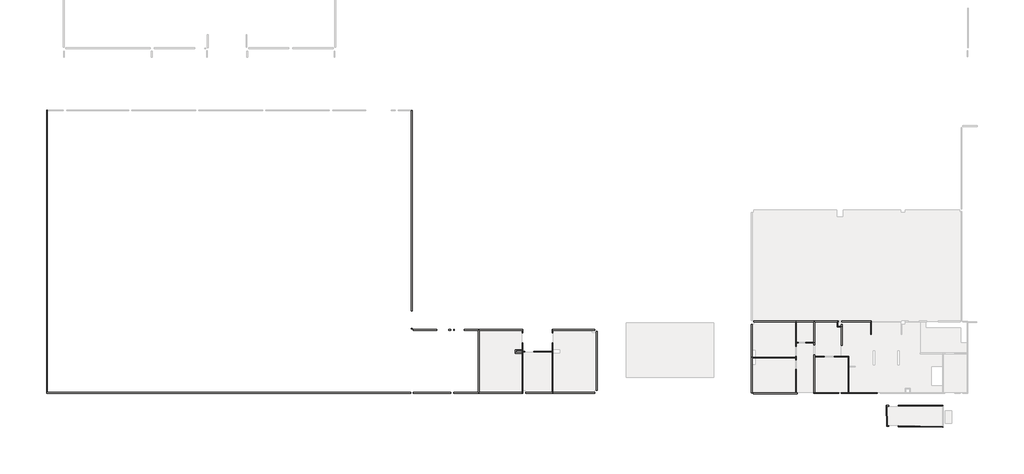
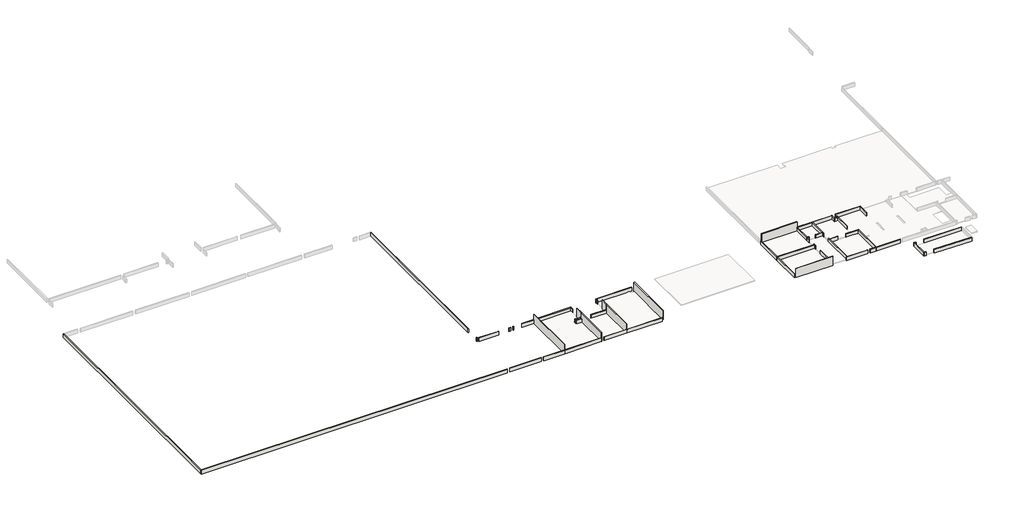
# One storey, part 1 of 4: 60 walls.
"""IFC4 building model written with IfcOpenShell, lengths in millimetres."""

from ifc_helpers import new_model, si_unit, frame, origin, place, context, project, spatial, polyline, outline, extrude, faceted_brep, element, save

model = new_model("IFC4")

# Units and contexts
model_context = context("Model", 3, world=origin())
ifc_project = project(units=[si_unit("LENGTHUNIT", "METRE", prefix="MILLI")], contexts=[model_context])

# Site, building, storey
site = spatial("IfcSite", under=ifc_project)
building = spatial("IfcBuilding", under=site)
storey = spatial("IfcBuildingStorey", under=building, Name="PLANTA DE IMPERMEABILIZAÇÃO - TERREO", Elevation=52050.0)

# Walls
placement = place(None, origin())
element("IfcWall", 1, ObjectType="Áreas frias", at=placement, inside=storey, context=model_context, shape_type="Brep", body=[
    faceted_brep([(15316.6299829, -23245.6176009, 52050.0), (12751.4501612, -23245.6176009, 52050.0), (12718.9501612, -23245.6176009, 52050.0), (12718.9501612, -23245.6176009, 52450.0), (12751.4501612, -23245.6176009, 52450.0), (15316.6299829, -23245.6176009, 52450.0), (15316.6299829, -23310.6176009, 52050.0), (15316.6299829, -23310.6176009, 52450.0), (12718.9501612, -23310.6176009, 52450.0), (12718.9501612, -23310.6176009, 52050.0)], [[[0, 1, 2, 3, 4, 5]], [[6, 7, 8, 9]], [[2, 1, 0, 6, 9]], [[3, 2, 9, 8]], [[5, 4, 3, 8, 7]], [[0, 5, 7, 6]]]),
])
element("IfcWall", 2, ObjectType="Áreas frias", at=placement, inside=storey, context=model_context, shape_type="Brep", body=[
    faceted_brep([(11821.9533154, -23245.6176009, 52050.0), (9659.5605099, -23245.6176009, 52050.0), (9594.5605099, -23245.6176009, 52050.0), (9562.0605099, -23245.6176009, 52050.0), (9562.0605099, -23245.6176009, 52450.0), (9594.5605099, -23245.6176009, 52450.0), (9659.5605099, -23245.6176009, 52450.0), (11821.9533154, -23245.6176009, 52450.0), (11821.9533154, -23310.6176009, 52050.0), (11821.9533154, -23310.6176009, 52450.0), (9562.0605099, -23310.6176009, 52450.0), (9562.0605099, -23310.6176009, 52050.0)], [[[0, 1, 2, 3, 4, 5, 6, 7]], [[8, 9, 10, 11]], [[3, 2, 1, 0, 8, 11]], [[4, 3, 11, 10]], [[7, 6, 5, 4, 10, 9]], [[0, 7, 9, 8]]]),
])
element("IfcWall", 3, ObjectType="Áreas frias", at=placement, inside=storey, context=model_context, shape_type="Brep", body=[
    faceted_brep([(9659.5605099, -23245.6176009, 52050.0), (9659.5605099, -20020.0217416, 52050.0), (9659.5605099, -19955.0217416, 52050.0), (9659.5605099, -19818.1176009, 52050.0), (9659.5605099, -19818.1176009, 52450.0), (9659.5605099, -19955.0217416, 52450.0), (9659.5605099, -20020.0217416, 52450.0), (9659.5605099, -23245.6176009, 52450.0), (9594.5605099, -23245.6176009, 52050.0), (9594.5605099, -23245.6176009, 52450.0), (9594.5605099, -19818.1176009, 52450.0), (9594.5605099, -19818.1176009, 52050.0)], [[[0, 1, 2, 3, 4, 5, 6, 7]], [[8, 9, 10, 11]], [[3, 2, 1, 0, 8, 11]], [[4, 3, 11, 10]], [[7, 6, 5, 4, 10, 9]], [[0, 7, 9, 8]]]),
])
element("IfcWall", 4, ObjectType="Áreas frias", at=placement, inside=storey, context=model_context, shape_type="SweptSolid", body=[
    extrude(outline(polyline([(10513.9501612, -20020.0217416), (9659.5605099, -20020.0217416), (9659.5605099, -19955.0217416), (10513.9501612, -19955.0217416), (10513.9501612, -20020.0217416)])), frame((0.0, 0.0, 52050.0), z_axis=(0.0, 0.0, 1.0), x_axis=(1.0, 0.0, 0.0)), (0.0, 0.0, 1.0), 400.0),
])
element("IfcWall", 5, ObjectType="Áreas frias", at=placement, inside=storey, context=model_context, shape_type="Brep", body=[
    faceted_brep([(11413.9501612, -20020.0217416, 52050.0), (12686.4501612, -20020.0217416, 52050.0), (12751.4501612, -20020.0217416, 52050.0), (12751.4501612, -20020.0217416, 52450.0), (12686.4501612, -20020.0217416, 52450.0), (11413.9501612, -20020.0217416, 52450.0), (11413.9501612, -19955.0217416, 52050.0), (11413.9501612, -19955.0217416, 52450.0), (12751.4501612, -19955.0217416, 52450.0), (12751.4501612, -19955.0217416, 52050.0)], [[[0, 1, 2, 3, 4, 5]], [[6, 7, 8, 9]], [[2, 1, 0, 6, 9]], [[5, 4, 3, 8, 7]], [[0, 5, 7, 6]], [[3, 2, 9, 8]]]),
])
element("IfcWall", 6, ObjectType="Áreas frias", at=placement, inside=storey, context=model_context, shape_type="Brep", body=[
    faceted_brep([(12686.4501612, -20020.0217416, 52050.0), (12686.4501612, -23245.6176009, 52050.0), (12686.4501612, -23245.6176009, 52450.0), (12686.4501612, -20020.0217416, 52450.0), (12751.4501612, -20020.0217416, 52050.0), (12751.4501612, -20020.0217416, 52450.0), (12751.4501612, -23245.6176009, 52450.0), (12751.4501612, -23245.6176009, 52050.0), (12718.9501612, -23245.6176009, 52050.0), (12718.9501612, -23245.6176009, 52450.0)], [[[0, 1, 2, 3]], [[4, 5, 6, 7]], [[1, 0, 4, 7, 8]], [[3, 2, 9, 6, 5]], [[2, 1, 8, 7, 6, 9]], [[0, 3, 5, 4]]]),
])
element("IfcWall", 7, ObjectType="Áreas frias", at=placement, inside=storey, context=model_context, shape_type="Brep", body=[
    faceted_brep([(14759.8058236, -17998.2862782, 52050.0), (14759.8058236, -16780.6176009, 52050.0), (14759.8058236, -16780.6176009, 52450.0), (14759.8058236, -17998.2862782, 52450.0), (14694.8058236, -17998.2862782, 52050.0), (14694.8058236, -17998.2862782, 52450.0), (14694.8058236, -16845.6176009, 52450.0), (14694.8058236, -16780.6176009, 52450.0), (14694.8058236, -16780.6176009, 52050.0), (14694.8058236, -16845.6176009, 52050.0)], [[[0, 1, 2, 3]], [[4, 5, 6, 7, 8, 9]], [[1, 0, 4, 9, 8]], [[3, 2, 7, 6, 5]], [[0, 3, 5, 4]], [[2, 1, 8, 7]]]),
])
element("IfcWall", 8, ObjectType="Áreas frias", at=placement, inside=storey, context=model_context, shape_type="SweptSolid", body=[
    extrude(outline(polyline([(12119.4533154, -16780.6176009), (14694.8058236, -16780.6176009), (14694.8058236, -16845.6176009), (12119.4533154, -16845.6176009), (12119.4533154, -16780.6176009)])), frame((0.0, 0.0, 52050.0), z_axis=(0.0, 0.0, 1.0), x_axis=(1.0, 0.0, 0.0)), (0.0, 0.0, 1.0), 400.0),
])
element("IfcWall", 9, ObjectType="Áreas frias", at=placement, inside=storey, context=model_context, shape_type="SweptSolid", body=[
    extrude(outline(polyline([(12127.950125, -17074.6176009), (12127.950125, -18972.5217416), (12062.950125, -18972.5217416), (12062.950125, -17074.6176009), (12127.950125, -17074.6176009)])), frame((0.0, 0.0, 52050.0), z_axis=(0.0, 0.0, 1.0), x_axis=(1.0, 0.0, 0.0)), (0.0, 0.0, 1.0), 400.0),
])
element("IfcWall", 10, ObjectType="Áreas frias", at=placement, inside=storey, context=model_context, shape_type="Brep", body=[
    faceted_brep([(11763.9533154, -16780.6176009, 52050.0), (9627.0605099, -16780.6176009, 52050.0), (9627.0605099, -16780.6176009, 52450.0), (11763.9533154, -16780.6176009, 52450.0), (11763.9533154, -16845.6176009, 52050.0), (11763.9533154, -16845.6176009, 52450.0), (9659.5605099, -16845.6176009, 52450.0), (9627.0605099, -16845.6176009, 52450.0), (9627.0605099, -16845.6176009, 52050.0), (9659.5605099, -16845.6176009, 52050.0)], [[[0, 1, 2, 3]], [[4, 5, 6, 7, 8, 9]], [[1, 0, 4, 9, 8]], [[2, 1, 8, 7]], [[3, 2, 7, 6, 5]], [[0, 3, 5, 4]]]),
])
element("IfcWall", 11, ObjectType="Áreas frias", at=placement, inside=storey, context=model_context, shape_type="SweptSolid", body=[
    extrude(outline(polyline([(17216.1897778, -24372.6344712), (21203.6897778, -24372.6344712), (21203.6897778, -24437.6344712), (17216.1897778, -24437.6344712), (17216.1897778, -24372.6344712)])), frame((0.0, 0.0, 52050.0), z_axis=(0.0, 0.0, 1.0), x_axis=(1.0, 0.0, 0.0)), (0.0, 0.0, 1.0), 400.0),
])
element("IfcWall", 12, ObjectType="Áreas frias", at=placement, inside=storey, context=model_context, shape_type="Brep", body=[
    faceted_brep([(16340.6986665, -24385.1344712, 52050.0), (16107.5170915, -24385.1344712, 52050.0), (16107.5170915, -24385.1344712, 52450.0), (16340.6986665, -24385.1344712, 52450.0), (16340.6986665, -24450.1344712, 52050.0), (16340.6986665, -24450.1344712, 52450.0), (16173.8802416, -24450.1344712, 52450.0), (16108.8662415, -24450.1344712, 52450.0), (16108.8662415, -24450.1344712, 52050.0), (16173.8802416, -24450.1344712, 52050.0)], [[[0, 1, 2, 3]], [[4, 5, 6, 7, 8, 9]], [[1, 0, 4, 9, 8]], [[3, 2, 7, 6, 5]], [[0, 3, 5, 4]], [[2, 1, 8, 7]]]),
])
element("IfcWall", 13, ObjectType="Áreas frias", at=placement, inside=storey, context=model_context, shape_type="SweptSolid", body=[
    extrude(outline(polyline([(16145.4276544, -26211.6078957), (16108.8662415, -24450.1344712), (16173.8802416, -24450.1344712), (16210.4416545, -26211.6078957), (16145.4276544, -26211.6078957)])), frame((0.0, 0.0, 52050.0), z_axis=(0.0, 0.0, 1.0), x_axis=(1.0, 0.0, 0.0)), (0.0, 0.0, 1.0), 400.0),
])
element("IfcWall", 14, ObjectType="Áreas frias", at=placement, inside=storey, context=model_context, shape_type="Brep", body=[
    faceted_brep([(16146.7768044, -26276.6078957, 52050.0), (16337.644805, -26276.6078957, 52050.0), (16337.644805, -26276.6078957, 52450.0), (16146.7768044, -26276.6078957, 52450.0), (16145.4276544, -26211.6078957, 52050.0), (16145.4276544, -26211.6078957, 52450.0), (16210.4416545, -26211.6078957, 52450.0), (16337.644805, -26211.6078957, 52450.0), (16337.644805, -26211.6078957, 52050.0), (16210.4416545, -26211.6078957, 52050.0)], [[[0, 1, 2, 3]], [[4, 5, 6, 7, 8, 9]], [[1, 0, 4, 9, 8]], [[2, 1, 8, 7]], [[3, 2, 7, 6, 5]], [[0, 3, 5, 4]]]),
])
element("IfcWall", 15, ObjectType="Áreas frias", at=placement, inside=storey, context=model_context, shape_type="SweptSolid", body=[
    extrude(outline(polyline([(21203.6897778, -26376.9940032), (17206.755653, -26297.4358761), (17208.049208, -26232.4487488), (21203.6897778, -26311.981128), (21203.6897778, -26376.9940032)])), frame((0.0, 0.0, 52050.0), z_axis=(0.0, 0.0, 1.0), x_axis=(1.0, 0.0, 0.0)), (0.0, 0.0, 1.0), 400.0),
])
element("IfcWall", 16, ObjectType="Áreas frias", at=placement, inside=storey, context=model_context, shape_type="Brep", body=[
    faceted_brep([(8072.0605099, -23255.6176009, 52050.0), (8019.7512942, -23255.6176009, 52050.0), (7954.7512942, -23255.6176009, 52050.0), (4118.9532965, -23255.6176009, 52050.0), (4118.9532965, -23255.6176009, 53050.0), (8072.0605099, -23255.6176009, 53050.0), (8072.0605099, -23320.6176009, 52050.0), (8072.0605099, -23320.6176009, 53050.0), (4118.9532965, -23320.6176009, 53050.0), (4118.9532965, -23320.6176009, 52050.0)], [[[0, 1, 2, 3, 4, 5]], [[6, 7, 8, 9]], [[3, 2, 1, 0, 6, 9]], [[4, 3, 9, 8]], [[5, 4, 8, 7]], [[0, 5, 7, 6]]]),
])
element("IfcWall", 17, ObjectType="Áreas frias", at=placement, inside=storey, context=model_context, shape_type="SweptSolid", body=[
    extrude(outline(polyline([(8019.7512942, -21142.7174473), (8019.7512942, -23255.6176009), (7954.7512942, -23255.6176009), (7954.7512942, -21142.7174473), (8019.7512942, -21142.7174473)])), frame((0.0, 0.0, 52050.0), z_axis=(0.0, 0.0, 1.0), x_axis=(1.0, 0.0, 0.0)), (0.0, 0.0, 1.0), 400.0),
])
element("IfcWall", 18, ObjectType="Áreas frias", at=placement, inside=storey, context=model_context, shape_type="SweptSolid", body=[
    extrude(outline(polyline([(8019.7512942, -20077.7174473), (8019.7512942, -20257.7174473), (7954.7512942, -20257.7174473), (7954.7512942, -20077.7174473), (8019.7512942, -20077.7174473)])), frame((0.0, 0.0, 52050.0), z_axis=(0.0, 0.0, 1.0), x_axis=(1.0, 0.0, 0.0)), (0.0, 0.0, 1.0), 400.0),
])
element("IfcWall", 19, ObjectType="Áreas frias", at=placement, inside=storey, context=model_context, shape_type="Brep", body=[
    faceted_brep([(7954.7512942, -20035.2174473, 52050.0), (4027.9532965, -20035.2174473, 52050.0), (4027.9532965, -20035.2174473, 52450.0), (7954.7512942, -20035.2174473, 52450.0), (7954.7512942, -20100.2174473, 52050.0), (7954.7512942, -20100.2174473, 52450.0), (4027.9532965, -20100.2174473, 52450.0), (4027.9532965, -20100.2174473, 52050.0), (7954.7512942, -20077.7174473, 52050.0), (4027.9532965, -20067.7174473, 52050.0), (4027.9532965, -20067.7174473, 52450.0), (7954.7512942, -20077.7174473, 52450.0)], [[[0, 1, 2, 3]], [[4, 5, 6, 7]], [[1, 0, 8, 4, 7, 9]], [[3, 2, 10, 6, 5, 11]], [[0, 3, 11, 5, 4, 8]], [[2, 1, 9, 7, 6, 10]]]),
])
element("IfcWall", 20, ObjectType="Áreas frias", at=placement, inside=storey, context=model_context, shape_type="Brep", body=[
    faceted_brep([(4027.9532965, -23236.1176009, 52050.0), (4027.9532965, -20100.2174473, 52050.0), (4027.9532965, -20067.7174473, 52050.0), (4027.9532965, -20067.7174473, 52450.0), (4027.9532965, -20100.2174473, 52450.0), (4027.9532965, -23236.1176009, 52450.0), (3962.9532965, -23236.1176009, 52050.0), (3962.9532965, -23236.1176009, 52450.0), (3962.9532965, -20067.7174473, 52450.0), (3962.9532965, -20067.7174473, 52050.0)], [[[0, 1, 2, 3, 4, 5]], [[6, 7, 8, 9]], [[2, 1, 0, 6, 9]], [[3, 2, 9, 8]], [[5, 4, 3, 8, 7]], [[0, 5, 7, 6]]]),
])
element("IfcWall", 21, ObjectType="Áreas frias", at=placement, inside=storey, context=model_context, shape_type="Brep", body=[
    faceted_brep([(7940.453306, -16845.6176009, 52050.0), (7940.453306, -18732.6216049, 52050.0), (7940.453306, -18732.6216049, 52450.0), (7940.453306, -16845.6176009, 52450.0), (8005.453306, -16845.6176009, 52050.0), (8005.453306, -16845.6176009, 52450.0), (8005.453306, -18700.1216049, 52450.0), (8005.453306, -18732.6216049, 52450.0), (8005.453306, -18732.6216049, 52050.0), (8005.453306, -18700.1216049, 52050.0), (7972.953306, -16845.6176009, 52050.0), (7972.953306, -16845.6176009, 52450.0)], [[[0, 1, 2, 3]], [[4, 5, 6, 7, 8, 9]], [[1, 0, 10, 4, 9, 8]], [[2, 1, 8, 7]], [[3, 2, 7, 6, 5, 11]], [[0, 3, 11, 5, 4, 10]]]),
])
element("IfcWall", 22, ObjectType="Áreas frias", at=placement, inside=storey, context=model_context, shape_type="Brep", body=[
    faceted_brep([(8005.453306, -18765.1216049, 52050.0), (8177.2512942, -18765.1216049, 52050.0), (8177.2512942, -18765.1216049, 52450.0), (8005.453306, -18765.1216049, 52450.0), (8005.453306, -18700.1216049, 52050.0), (8005.453306, -18700.1216049, 52450.0), (8177.2512942, -18700.1216049, 52450.0), (8177.2512942, -18700.1216049, 52050.0), (8005.453306, -18732.6216049, 52050.0), (8005.453306, -18732.6216049, 52450.0)], [[[0, 1, 2, 3]], [[4, 5, 6, 7]], [[1, 0, 8, 4, 7]], [[2, 1, 7, 6]], [[3, 2, 6, 5, 9]], [[0, 3, 9, 5, 4, 8]]]),
])
element("IfcWall", 23, ObjectType="Áreas frias", at=placement, inside=storey, context=model_context, shape_type="SweptSolid", body=[
    extrude(outline(polyline([(9594.5605099, -18765.1216049), (8862.2512942, -18765.1216049), (8862.2512942, -18700.1216049), (9594.5605099, -18700.1216049), (9594.5605099, -18765.1216049)])), frame((0.0, 0.0, 52050.0), z_axis=(0.0, 0.0, 1.0), x_axis=(1.0, 0.0, 0.0)), (0.0, 0.0, 1.0), 400.0),
])
element("IfcWall", 24, ObjectType="Áreas frias", at=placement, inside=storey, context=model_context, shape_type="Brep", body=[
    faceted_brep([(9659.5605099, -18910.0716733, 52050.0), (9659.5605099, -16845.6176009, 52050.0), (9659.5605099, -16845.6176009, 52450.0), (9659.5605099, -18910.0716733, 52450.0), (9594.5605099, -18910.0716733, 52050.0), (9594.5605099, -18910.0716733, 52450.0), (9594.5605099, -18765.1216049, 52450.0), (9594.5605099, -18700.1216049, 52450.0), (9594.5605099, -16845.6176009, 52450.0), (9594.5605099, -16845.6176009, 52050.0), (9594.5605099, -18700.1216049, 52050.0), (9594.5605099, -18765.1216049, 52050.0), (9627.0605099, -16845.6176009, 52050.0), (9627.0605099, -16845.6176009, 52450.0)], [[[0, 1, 2, 3]], [[4, 5, 6, 7, 8, 9, 10, 11]], [[1, 0, 4, 11, 10, 9, 12]], [[3, 2, 13, 8, 7, 6, 5]], [[0, 3, 5, 4]], [[2, 1, 12, 9, 8, 13]]]),
])
element("IfcWall", 25, ObjectType="Áreas frias", at=placement, inside=storey, context=model_context, shape_type="SweptSolid", body=[
    extrude(outline(polyline([(-9942.449875, -17726.6239439), (-9942.449875, -23032.6111109), (-10007.449875, -23032.6111109), (-10007.449875, -17726.6239439), (-9942.449875, -17726.6239439)])), frame((0.0, 0.0, 52050.0), z_axis=(0.0, 0.0, 1.0), x_axis=(1.0, 0.0, 0.0)), (0.0, 0.0, 1.0), 1000.0),
])
element("IfcWall", 26, ObjectType="Áreas frias", at=placement, inside=storey, context=model_context, shape_type="Brep", body=[
    faceted_brep([(-10176.4854723, -17540.4176009, 52050.0), (-13997.049875, -17540.4176009, 52050.0), (-13997.049875, -17540.4176009, 52450.0), (-10176.4854723, -17540.4176009, 52450.0), (-10176.4854723, -17605.4176009, 52050.0), (-10176.4854723, -17605.4176009, 52450.0), (-13932.049875, -17605.4176009, 52450.0), (-13997.049875, -17605.4176009, 52450.0), (-13997.049875, -17605.4176009, 52050.0), (-13932.049875, -17605.4176009, 52050.0)], [[[0, 1, 2, 3]], [[4, 5, 6, 7, 8, 9]], [[1, 0, 4, 9, 8]], [[3, 2, 7, 6, 5]], [[0, 3, 5, 4]], [[2, 1, 8, 7]]]),
])
element("IfcWall", 27, ObjectType="Áreas frias", at=placement, inside=storey, context=model_context, shape_type="SweptSolid", body=[
    extrude(outline(polyline([(-13997.049875, -17842.9176009), (-13997.049875, -17605.4176009), (-13932.049875, -17605.4176009), (-13932.049875, -17842.9176009), (-13997.049875, -17842.9176009)])), frame((0.0, 0.0, 52050.0), z_axis=(0.0, 0.0, 1.0), x_axis=(1.0, 0.0, 0.0)), (0.0, 0.0, 1.0), 400.0),
])
element("IfcWall", 28, ObjectType="Áreas frias", at=placement, inside=storey, context=model_context, shape_type="Brep", body=[
    faceted_brep([(-13997.049875, -18742.9176009, 52050.0), (-13997.049875, -19490.4176009, 52050.0), (-13997.049875, -19522.9176009, 52050.0), (-13997.049875, -19522.9176009, 53050.0), (-13997.049875, -18742.9176009, 53050.0), (-13932.049875, -18742.9176009, 52050.0), (-13932.049875, -18742.9176009, 53050.0), (-13932.049875, -19522.9176009, 53050.0), (-13932.049875, -19522.9176009, 52050.0)], [[[0, 1, 2, 3, 4]], [[5, 6, 7, 8]], [[2, 1, 0, 5, 8]], [[4, 3, 7, 6]], [[0, 4, 6, 5]], [[2, 8, 7, 3]]]),
])
element("IfcWall", 29, ObjectType="Áreas frias", at=placement, inside=storey, context=model_context, shape_type="Brep", body=[
    faceted_brep([(-10166.4854723, -23215.4176009, 52050.0), (-13932.049875, -23215.4176009, 52050.0), (-13964.549875, -23215.4176009, 52050.0), (-13964.549875, -23215.4176009, 52450.0), (-10166.4854723, -23215.4176009, 52450.0), (-10166.4854723, -23280.4176009, 52050.0), (-10166.4854723, -23280.4176009, 52450.0), (-13964.549875, -23280.4176009, 52450.0), (-13964.549875, -23280.4176009, 52050.0)], [[[0, 1, 2, 3, 4]], [[5, 6, 7, 8]], [[2, 1, 0, 5, 8]], [[3, 2, 8, 7]], [[4, 3, 7, 6]], [[0, 4, 6, 5]]]),
])
element("IfcWall", 30, ObjectType="Áreas frias", at=placement, inside=storey, context=model_context, shape_type="Brep", body=[
    faceted_brep([(-13997.049875, -19490.4176009, 52050.0), (-15654.2905938, -19490.4176009, 52050.0), (-15654.2905938, -19490.4176009, 52450.0), (-13997.049875, -19490.4176009, 52450.0), (-13997.049875, -19555.4176009, 52050.0), (-13997.049875, -19555.4176009, 52450.0), (-15654.2905938, -19555.4176009, 52450.0), (-15654.2905938, -19555.4176009, 52050.0), (-13997.049875, -19522.9176009, 52050.0)], [[[0, 1, 2, 3]], [[4, 5, 6, 7]], [[1, 0, 8, 4, 7]], [[2, 1, 7, 6]], [[3, 2, 6, 5]], [[0, 3, 5, 4, 8]]]),
])
element("IfcWall", 31, ObjectType="Áreas frias", at=placement, inside=storey, context=model_context, shape_type="Brep", body=[
    faceted_brep([(-16474.2905938, -19490.4176009, 52050.0), (-16642.049875, -19490.4176009, 52050.0), (-16642.049875, -19490.4176009, 52450.0), (-16474.2905938, -19490.4176009, 52450.0), (-16474.2905938, -19555.4176009, 52050.0), (-16474.2905938, -19555.4176009, 52450.0), (-16642.049875, -19555.4176009, 52450.0), (-16642.049875, -19555.4176009, 52050.0), (-16642.049875, -19522.9176009, 52050.0)], [[[0, 1, 2, 3]], [[4, 5, 6, 7]], [[1, 0, 4, 7, 8]], [[3, 2, 6, 5]], [[0, 3, 5, 4]], [[2, 1, 8, 7, 6]]]),
])
element("IfcWall", 32, ObjectType="Áreas frias", at=placement, inside=storey, context=model_context, shape_type="Brep", body=[
    faceted_brep([(-16707.049875, -18751.6239439, 52050.0), (-16707.049875, -19522.9176009, 52050.0), (-16707.049875, -19522.9176009, 53050.0), (-16707.049875, -18751.6239439, 53050.0), (-16642.049875, -18751.6239439, 52050.0), (-16642.049875, -18751.6239439, 53050.0), (-16642.049875, -19522.9176009, 53050.0), (-16642.049875, -19522.9176009, 52050.0), (-16642.049875, -19490.4176009, 52050.0)], [[[0, 1, 2, 3]], [[4, 5, 6, 7, 8]], [[1, 0, 4, 8, 7]], [[3, 2, 6, 5]], [[0, 3, 5, 4]], [[1, 7, 6, 2]]]),
])
element("IfcWall", 33, ObjectType="Áreas frias", at=placement, inside=storey, context=model_context, shape_type="Brep", body=[
    faceted_brep([(-16707.049875, -23215.4176009, 52050.0), (-20582.049875, -23215.4176009, 52050.0), (-20614.549875, -23215.4176009, 52050.0), (-20614.549875, -23215.4176009, 52450.0), (-16707.049875, -23215.4176009, 52450.0), (-16707.049875, -23280.4176009, 52050.0), (-16707.049875, -23280.4176009, 52450.0), (-20614.549875, -23280.4176009, 52450.0), (-20614.549875, -23280.4176009, 52050.0)], [[[0, 1, 2, 3, 4]], [[5, 6, 7, 8]], [[2, 1, 0, 5, 8]], [[3, 2, 8, 7]], [[4, 3, 7, 6]], [[0, 4, 6, 5]]]),
])
element("IfcWall", 34, ObjectType="Áreas frias", at=placement, inside=storey, context=model_context, shape_type="SweptSolid", body=[
    extrude(outline(polyline([(-26495.3103323, -23217.9176009), (-23114.549875, -23217.9176009), (-23114.549875, -23282.9176009), (-26495.3103323, -23282.9176009), (-26495.3103323, -23217.9176009)])), frame((0.0, 0.0, 52050.0), z_axis=(0.0, 0.0, 1.0), x_axis=(1.0, 0.0, 0.0)), (0.0, 0.0, 1.0), 400.0),
])
element("IfcWall", 35, ObjectType="Áreas frias", at=placement, inside=storey, context=model_context, shape_type="Brep", body=[
    faceted_brep([(-26752.3103323, -23215.4175998, 52050.0), (-59500.0498836, -23215.4175998, 52050.0), (-59565.0498836, -23215.4175998, 52050.0), (-59565.0498836, -23215.4175998, 52450.0), (-59500.0498836, -23215.4175998, 52450.0), (-26752.3103323, -23215.4175998, 52450.0), (-26752.3103323, -23280.4175998, 52050.0), (-26752.3103323, -23280.4175998, 52450.0), (-59565.0498836, -23280.4175998, 52450.0), (-59565.0498836, -23280.4175998, 52050.0)], [[[0, 1, 2, 3, 4, 5]], [[6, 7, 8, 9]], [[2, 1, 0, 6, 9]], [[5, 4, 3, 8, 7]], [[0, 5, 7, 6]], [[3, 2, 9, 8]]]),
])
element("IfcWall", 36, ObjectType="Áreas frias", at=placement, inside=storey, context=model_context, shape_type="Brep", body=[
    faceted_brep([(-59500.0498836, -23215.4175998, 52050.0), (-59500.0498836, 2201.8823991, 52050.0), (-59500.0498836, 2266.8823991, 52050.0), (-59500.0498836, 2266.8823991, 52450.0), (-59500.0498836, 2201.8823991, 52450.0), (-59500.0498836, -23215.4175998, 52450.0), (-59565.0498836, -23215.4175998, 52050.0), (-59565.0498836, -23215.4175998, 52450.0), (-59565.0498836, 2266.8823991, 52450.0), (-59565.0498836, 2266.8823991, 52050.0)], [[[0, 1, 2, 3, 4, 5]], [[6, 7, 8, 9]], [[2, 1, 0, 6, 9]], [[5, 4, 3, 8, 7]], [[0, 5, 7, 6]], [[3, 2, 9, 8]]]),
])
element("IfcWall", 37, ObjectType="Áreas frias", at=placement, inside=storey, context=model_context, shape_type="SweptSolid", body=[
    extrude(outline(polyline([(-26692.049875, -15838.1176009), (-26692.049875, 2189.3823991), (-26627.049875, 2189.3823991), (-26627.049875, -15838.1176009), (-26692.049875, -15838.1176009)])), frame((0.0, 0.0, 52050.0), z_axis=(0.0, 0.0, 1.0), x_axis=(1.0, 0.0, 0.0)), (0.0, 0.0, 1.0), 400.0),
])
element("IfcWall", 38, ObjectType="Áreas frias", at=placement, inside=storey, context=model_context, shape_type="SweptSolid", body=[
    extrude(outline(polyline([(-26692.049875, -17482.6239439), (-26692.049875, -17423.1176009), (-26627.049875, -17423.1176009), (-26627.049875, -17482.6239439), (-26692.049875, -17482.6239439)])), frame((0.0, 0.0, 52050.0), z_axis=(0.0, 0.0, 1.0), x_axis=(1.0, 0.0, 0.0)), (0.0, 0.0, 1.0), 400.0),
])
element("IfcWall", 39, ObjectType="Áreas frias", at=placement, inside=storey, context=model_context, shape_type="SweptSolid", body=[
    extrude(outline(polyline([(-24399.8594056, -17610.4176009), (-26495.3103323, -17610.4176009), (-26495.3103323, -17545.4176009), (-24399.8594056, -17545.4176009), (-24399.8594056, -17610.4176009)])), frame((0.0, 0.0, 52050.0), z_axis=(0.0, 0.0, 1.0), x_axis=(1.0, 0.0, 0.0)), (0.0, 0.0, 1.0), 400.0),
])
element("IfcWall", 40, ObjectType="Áreas frias", at=placement, inside=storey, context=model_context, shape_type="SweptSolid", body=[
    extrude(outline(polyline([(-23114.549875, -17605.4176009), (-23299.8594056, -17605.4176009), (-23299.8594056, -17540.4176009), (-23114.549875, -17540.4176009), (-23114.549875, -17605.4176009)])), frame((0.0, 0.0, 52050.0), z_axis=(0.0, 0.0, 1.0), x_axis=(1.0, 0.0, 0.0)), (0.0, 0.0, 1.0), 400.0),
])
element("IfcWall", 41, ObjectType="Áreas frias", at=placement, inside=storey, context=model_context, shape_type="SweptSolid", body=[
    extrude(outline(polyline([(-22824.6985869, -17605.4176009), (-22871.6961723, -17605.4176009), (-22871.6961723, -17540.4176009), (-22824.6985869, -17540.4176009), (-22824.6985869, -17605.4176009)])), frame((0.0, 0.0, 52050.0), z_axis=(0.0, 0.0, 1.0), x_axis=(1.0, 0.0, 0.0)), (0.0, 0.0, 1.0), 400.0),
])
element("IfcWall", 42, ObjectType="Áreas frias", at=placement, inside=storey, context=model_context, shape_type="Brep", body=[
    faceted_brep([(-21924.6985869, -17605.4176009, 52050.0), (-20647.049875, -17605.4176009, 52050.0), (-20614.549875, -17605.4176009, 52050.0), (-20614.549875, -17605.4176009, 52450.0), (-21924.6985869, -17605.4176009, 52450.0), (-21924.6985869, -17540.4176009, 52050.0), (-21924.6985869, -17540.4176009, 52450.0), (-20614.549875, -17540.4176009, 52450.0), (-20614.549875, -17540.4176009, 52050.0)], [[[0, 1, 2, 3, 4]], [[5, 6, 7, 8]], [[2, 1, 0, 5, 8]], [[3, 2, 8, 7]], [[4, 3, 7, 6]], [[0, 4, 6, 5]]]),
])
element("IfcWall", 43, ObjectType="Áreas frias", at=placement, inside=storey, context=model_context, shape_type="SweptSolid", body=[
    extrude(outline(polyline([(-16642.049875, -17605.4176009), (-16642.049875, -17851.6239439), (-16707.049875, -17851.6239439), (-16707.049875, -17605.4176009), (-16642.049875, -17605.4176009)])), frame((0.0, 0.0, 52050.0), z_axis=(0.0, 0.0, 1.0), x_axis=(1.0, 0.0, 0.0)), (0.0, 0.0, 1.0), 400.0),
])
element("IfcWall", 44, ObjectType="Áreas frias", at=placement, inside=storey, context=model_context, shape_type="Brep", body=[
    faceted_brep([(-20582.049875, -23215.4176009, 52050.0), (-20582.049875, -17605.4176009, 52050.0), (-20582.049875, -17605.4176009, 53050.0), (-20582.049875, -23215.4176009, 53050.0), (-20647.049875, -23215.4176009, 52050.0), (-20647.049875, -23215.4176009, 53050.0), (-20647.049875, -17605.4176009, 53050.0), (-20647.049875, -17605.4176009, 52050.0), (-20614.549875, -23215.4176009, 52050.0), (-20614.549875, -17605.4176009, 52050.0)], [[[0, 1, 2, 3]], [[4, 5, 6, 7]], [[1, 0, 8, 4, 7, 9]], [[3, 2, 6, 5]], [[0, 3, 5, 4, 8]], [[2, 1, 9, 7, 6]]]),
])
element("IfcWall", 45, ObjectType="Áreas frias", at=placement, inside=storey, context=model_context, shape_type="Brep", body=[
    faceted_brep([(7972.953306, -16780.6176009, 52050.0), (4181.9532965, -16780.6176009, 52050.0), (4181.9532965, -16780.6176009, 53050.0), (7972.953306, -16780.6176009, 53050.0), (7972.953306, -16780.6176009, 52450.0), (7972.953306, -16845.6176009, 52050.0), (7972.953306, -16845.6176009, 52450.0), (7972.953306, -16845.6176009, 53050.0), (4181.9532965, -16845.6176009, 53050.0), (4181.9532965, -16845.6176009, 52050.0), (7940.453306, -16845.6176009, 52050.0)], [[[0, 1, 2, 3, 4]], [[5, 6, 7, 8, 9, 10]], [[1, 0, 5, 10, 9]], [[2, 1, 9, 8]], [[3, 2, 8, 7]], [[0, 4, 3, 7, 6, 5]]]),
])
element("IfcWall", 46, ObjectType="Áreas frias", at=placement, inside=storey, context=model_context, shape_type="Brep", body=[
    faceted_brep([(12718.9501612, -23245.6176009, 52050.0), (12686.4501612, -23245.6176009, 52050.0), (12068.9533154, -23245.6176009, 52050.0), (12068.9533154, -23245.6176009, 52450.0), (12686.4501612, -23245.6176009, 52450.0), (12718.9501612, -23245.6176009, 52450.0), (12718.9501612, -23310.6176009, 52050.0), (12718.9501612, -23310.6176009, 52450.0), (12068.9533154, -23310.6176009, 52450.0), (12068.9533154, -23310.6176009, 52050.0)], [[[0, 1, 2, 3, 4, 5]], [[6, 7, 8, 9]], [[2, 1, 0, 6, 9]], [[3, 2, 9, 8]], [[5, 4, 3, 8, 7]], [[0, 5, 7, 6]]]),
])
element("IfcWall", 47, ObjectType="Áreas frias", at=placement, inside=storey, context=model_context, shape_type="Brep", body=[
    faceted_brep([(8019.7512942, -20077.7174473, 52050.0), (8019.7512942, -19942.7174473, 52050.0), (8019.7512942, -19942.7174473, 52450.0), (8019.7512942, -20077.7174473, 52450.0), (7954.7512942, -20077.7174473, 52050.0), (7954.7512942, -20077.7174473, 52450.0), (7954.7512942, -20035.2174473, 52450.0), (7954.7512942, -19942.7174473, 52450.0), (7954.7512942, -19942.7174473, 52050.0), (7954.7512942, -20035.2174473, 52050.0)], [[[0, 1, 2, 3]], [[4, 5, 6, 7, 8, 9]], [[1, 0, 4, 9, 8]], [[2, 1, 8, 7]], [[3, 2, 7, 6, 5]], [[0, 3, 5, 4]]]),
])
element("IfcWall", 48, ObjectType="Áreas frias", at=placement, inside=storey, context=model_context, shape_type="Brep", body=[
    faceted_brep([(4027.9532965, -20067.7174473, 52050.0), (4027.9532965, -20035.2174473, 52050.0), (4027.9532965, -17074.6176009, 52050.0), (4027.9532965, -17074.6176009, 52450.0), (4027.9532965, -20035.2174473, 52450.0), (4027.9532965, -20067.7174473, 52450.0), (3962.9532965, -20067.7174473, 52050.0), (3962.9532965, -20067.7174473, 52450.0), (3962.9532965, -17074.6176009, 52450.0), (3962.9532965, -17074.6176009, 52050.0)], [[[0, 1, 2, 3, 4, 5]], [[6, 7, 8, 9]], [[2, 1, 0, 6, 9]], [[3, 2, 9, 8]], [[5, 4, 3, 8, 7]], [[0, 5, 7, 6]]]),
])
element("IfcWall", 49, ObjectType="Áreas frias", at=placement, inside=storey, context=model_context, shape_type="Brep", body=[
    faceted_brep([(7940.453306, -18732.6216049, 52050.0), (7940.453306, -19042.7174473, 52050.0), (7940.453306, -19042.7174473, 52450.0), (7940.453306, -18732.6216049, 52450.0), (8005.453306, -18732.6216049, 52050.0), (8005.453306, -18732.6216049, 52450.0), (8005.453306, -18765.1216049, 52450.0), (8005.453306, -19042.7174473, 52450.0), (8005.453306, -19042.7174473, 52050.0), (8005.453306, -18765.1216049, 52050.0)], [[[0, 1, 2, 3]], [[4, 5, 6, 7, 8, 9]], [[1, 0, 4, 9, 8]], [[2, 1, 8, 7]], [[3, 2, 7, 6, 5]], [[0, 3, 5, 4]]]),
])
element("IfcWall", 50, ObjectType="Áreas frias", at=placement, inside=storey, context=model_context, shape_type="Brep", body=[
    faceted_brep([(11693.9533154, -16855.6176009, 52050.0), (11693.9533154, -17305.6176009, 52050.0), (11693.9533154, -17305.6176009, 52450.0), (11693.9533154, -16855.6176009, 52450.0), (11758.9533154, -16855.6176009, 52050.0), (11758.9533154, -16855.6176009, 52450.0), (11758.9533154, -17240.6176009, 52450.0), (11758.9533154, -17305.6176009, 52450.0), (11758.9533154, -17305.6176009, 52050.0), (11758.9533154, -17240.6176009, 52050.0)], [[[0, 1, 2, 3]], [[4, 5, 6, 7, 8, 9]], [[1, 0, 4, 9, 8]], [[3, 2, 7, 6, 5]], [[0, 3, 5, 4]], [[2, 1, 8, 7]]]),
])
element("IfcWall", 51, ObjectType="Áreas frias", at=placement, inside=storey, context=model_context, shape_type="SweptSolid", body=[
    extrude(outline(polyline([(12050.450125, -17305.6176009), (11758.9533154, -17305.6176009), (11758.9533154, -17240.6176009), (12050.450125, -17240.6176009), (12050.450125, -17305.6176009)])), frame((0.0, 0.0, 52050.0), z_axis=(0.0, 0.0, 1.0), x_axis=(1.0, 0.0, 0.0)), (0.0, 0.0, 1.0), 400.0),
])
element("IfcWall", 52, ObjectType="Áreas frias", at=placement, inside=storey, context=model_context, shape_type="Brep", body=[
    faceted_brep([(9627.0605099, -16780.6176009, 52050.0), (7972.953306, -16780.6176009, 52050.0), (7972.953306, -16780.6176009, 52450.0), (9627.0605099, -16780.6176009, 52450.0), (9627.0605099, -16845.6176009, 52050.0), (9627.0605099, -16845.6176009, 52450.0), (9594.5605099, -16845.6176009, 52450.0), (8005.453306, -16845.6176009, 52450.0), (7972.953306, -16845.6176009, 52450.0), (7972.953306, -16845.6176009, 52050.0), (8005.453306, -16845.6176009, 52050.0), (9594.5605099, -16845.6176009, 52050.0)], [[[0, 1, 2, 3]], [[4, 5, 6, 7, 8, 9, 10, 11]], [[1, 0, 4, 11, 10, 9]], [[2, 1, 9, 8]], [[3, 2, 8, 7, 6, 5]], [[0, 3, 5, 4]]]),
])
element("IfcWall", 53, ObjectType="Áreas frias", at=placement, inside=storey, context=model_context, shape_type="Brep", body=[
    faceted_brep([(-20614.549875, -23215.4176009, 52050.0), (-20647.049875, -23215.4176009, 52050.0), (-22861.6961723, -23215.4176009, 52050.0), (-22861.6961723, -23215.4176009, 52450.0), (-20614.549875, -23215.4176009, 52450.0), (-20614.549875, -23280.4176009, 52050.0), (-20614.549875, -23280.4176009, 52450.0), (-22861.6961723, -23280.4176009, 52450.0), (-22861.6961723, -23280.4176009, 52050.0)], [[[0, 1, 2, 3, 4]], [[5, 6, 7, 8]], [[2, 1, 0, 5, 8]], [[3, 2, 8, 7]], [[4, 3, 7, 6]], [[0, 4, 6, 5]]]),
])
element("IfcWall", 54, ObjectType="Áreas frias", at=placement, inside=storey, context=model_context, shape_type="Brep", body=[
    faceted_brep([(-20614.549875, -17605.4176009, 52050.0), (-20582.049875, -17605.4176009, 52050.0), (-16707.049875, -17605.4176009, 52050.0), (-16642.049875, -17605.4176009, 52050.0), (-16636.5579423, -17605.4176009, 52050.0), (-16636.5579423, -17605.4176009, 52450.0), (-16642.049875, -17605.4176009, 52450.0), (-16707.049875, -17605.4176009, 52450.0), (-20614.549875, -17605.4176009, 52450.0), (-20614.549875, -17540.4176009, 52050.0), (-20614.549875, -17540.4176009, 52450.0), (-16636.5579423, -17540.4176009, 52450.0), (-16636.5579423, -17540.4176009, 52050.0)], [[[0, 1, 2, 3, 4, 5, 6, 7, 8]], [[9, 10, 11, 12]], [[4, 3, 2, 1, 0, 9, 12]], [[5, 4, 12, 11]], [[8, 7, 6, 5, 11, 10]], [[0, 8, 10, 9]]]),
])
element("IfcWall", 55, ObjectType="Áreas frias", at=placement, inside=storey, context=model_context, shape_type="Brep", body=[
    faceted_brep([(-13964.549875, -23215.4176009, 52050.0), (-13997.049875, -23215.4176009, 52050.0), (-16389.5579423, -23215.4176009, 52050.0), (-16389.5579423, -23215.4176009, 52450.0), (-13964.549875, -23215.4176009, 52450.0), (-13964.549875, -23280.4176009, 52050.0), (-13964.549875, -23280.4176009, 52450.0), (-16389.5579423, -23280.4176009, 52450.0), (-16389.5579423, -23280.4176009, 52050.0)], [[[0, 1, 2, 3, 4]], [[5, 6, 7, 8]], [[2, 1, 0, 5, 8]], [[3, 2, 8, 7]], [[4, 3, 7, 6]], [[0, 4, 6, 5]]]),
])
element("IfcWall", 56, ObjectType="Áreas frias", at=placement, inside=storey, context=model_context, shape_type="Brep", body=[
    faceted_brep([(-13997.049875, -19522.9176009, 53050.0), (-13997.049875, -19522.9176009, 52050.0), (-13997.049875, -19555.4176009, 52050.0), (-13997.049875, -23215.4176009, 52050.0), (-13997.049875, -23215.4176009, 53050.0), (-13932.049875, -19522.9176009, 52050.0), (-13932.049875, -19522.9176009, 53050.0), (-13932.049875, -23215.4176009, 53050.0), (-13932.049875, -23215.4176009, 52050.0), (-13964.549875, -23215.4176009, 52050.0)], [[[0, 1, 2, 3, 4]], [[5, 6, 7, 8]], [[3, 2, 1, 5, 8, 9]], [[0, 4, 7, 6]], [[4, 3, 9, 8, 7]], [[0, 6, 5, 1]]]),
])
element("IfcWall", 57, ObjectType="Áreas frias", at=placement, inside=storey, context=model_context, shape_type="Brep", body=[
    faceted_brep([(-16707.049875, -19522.9176009, 53050.0), (-16707.049875, -19522.9176009, 52050.0), (-16707.049875, -23215.4176009, 52050.0), (-16707.049875, -23280.4176009, 52050.0), (-16707.049875, -23280.4176009, 52450.0), (-16707.049875, -23280.4176009, 53050.0), (-16642.049875, -19522.9176009, 52050.0), (-16642.049875, -19522.9176009, 53050.0), (-16642.049875, -23280.4176009, 53050.0), (-16642.049875, -23280.4176009, 52050.0), (-16642.049875, -19555.4176009, 52050.0)], [[[0, 1, 2, 3, 4, 5]], [[6, 7, 8, 9, 10]], [[3, 2, 1, 6, 10, 9]], [[0, 5, 8, 7]], [[5, 4, 3, 9, 8]], [[0, 7, 6, 1]]]),
])
element("IfcWall", 58, ObjectType="Áreas frias", at=placement, inside=storey, context=model_context, shape_type="Brep", body=[
    faceted_brep([(-16719.549875, -19610.4176009, 52050.0), (-17247.049875, -19610.4176009, 52050.0), (-17312.049875, -19610.4176009, 52050.0), (-17312.049875, -19610.4176009, 52450.0), (-17247.049875, -19610.4176009, 52450.0), (-16719.549875, -19610.4176009, 52450.0), (-16719.549875, -19675.4176009, 52050.0), (-16719.549875, -19675.4176009, 52450.0), (-17312.049875, -19675.4176009, 52450.0), (-17312.049875, -19675.4176009, 52050.0)], [[[0, 1, 2, 3, 4, 5]], [[6, 7, 8, 9]], [[2, 1, 0, 6, 9]], [[5, 4, 3, 8, 7]], [[0, 5, 7, 6]], [[3, 2, 9, 8]]]),
])
element("IfcWall", 59, ObjectType="Áreas frias", at=placement, inside=storey, context=model_context, shape_type="Brep", body=[
    faceted_brep([(-17247.049875, -19610.4176009, 52050.0), (-17247.049875, -19435.4176009, 52050.0), (-17247.049875, -19370.4176009, 52050.0), (-17247.049875, -19370.4176009, 52450.0), (-17247.049875, -19435.4176009, 52450.0), (-17247.049875, -19610.4176009, 52450.0), (-17312.049875, -19610.4176009, 52050.0), (-17312.049875, -19610.4176009, 52450.0), (-17312.049875, -19370.4176009, 52450.0), (-17312.049875, -19370.4176009, 52050.0)], [[[0, 1, 2, 3, 4, 5]], [[6, 7, 8, 9]], [[2, 1, 0, 6, 9]], [[5, 4, 3, 8, 7]], [[0, 5, 7, 6]], [[3, 2, 9, 8]]]),
])
element("IfcWall", 60, ObjectType="Áreas frias", at=placement, inside=storey, context=model_context, shape_type="SweptSolid", body=[
    extrude(outline(polyline([(-16719.549875, -19435.4176009), (-17247.049875, -19435.4176009), (-17247.049875, -19370.4176009), (-16719.549875, -19370.4176009), (-16719.549875, -19435.4176009)])), frame((0.0, 0.0, 52050.0), z_axis=(0.0, 0.0, 1.0), x_axis=(1.0, 0.0, 0.0)), (0.0, 0.0, 1.0), 400.0),
])

save(model, "model.ifc")
